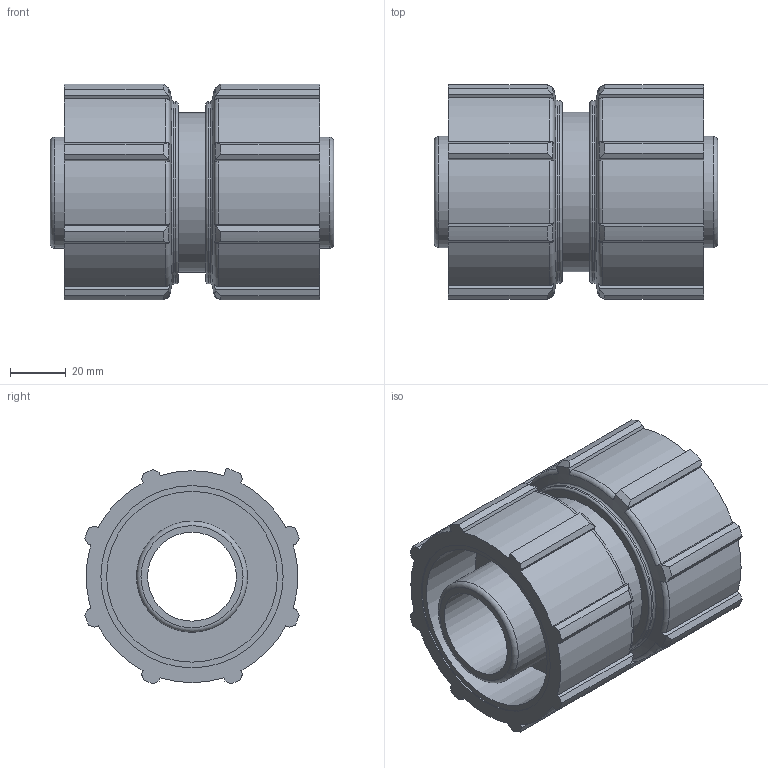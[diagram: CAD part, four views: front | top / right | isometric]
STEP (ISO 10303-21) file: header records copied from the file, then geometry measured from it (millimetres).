
FILE_DESCRIPTION(/* description */ ('PLASSON MODULAR ADAPTOR 40'),/* implementation_level */ '2;1');
FILE_NAME(/* name */ 'C:\Dropbox\KIMPROJECTS-Inventor\99-16-3568-Processing\Mechanical Fittings\07940\079400040__0794060400A.ipt.stp',/* time_stamp */ '2018-07-31T14:20:41+03:00',/* author */ ('KIM'),/* organization */ (''),/* preprocessor_version */ 'ST-DEVELOPER v15.6',/* originating_system */ 'Autodesk Inventor 2015',/* authorisation */ '');
FILE_SCHEMA (('AUTOMOTIVE_DESIGN { 1 0 10303 214 3 1 1 }'));
Length unit declared in the file: millimetre
Products named in the file (1): 079400040__0794060400A
Bounding box: 102 x 77.16 x 77.68 mm (x, y, z)
Volume: 245995.4 mm3; surface area: 62612.8 mm2
Topology: 1 solids, 1 shells, 154 faces, 424 edges, 280 vertices
Faces by surface type: plane 72, cylinder 42, torus 22, cone 18
Full cylindrical faces by diameter (mm): 32 x1, 40 x2, 57.4 x1, 61.5 x2, 65.6 x4
Entity records: 4850 total; most frequent: CARTESIAN_POINT 983, ORIENTED_EDGE 808, DIRECTION 808, EDGE_CURVE 404, AXIS2_PLACEMENT_3D 309, VERTEX_POINT 278, LINE 190, VECTOR 190
